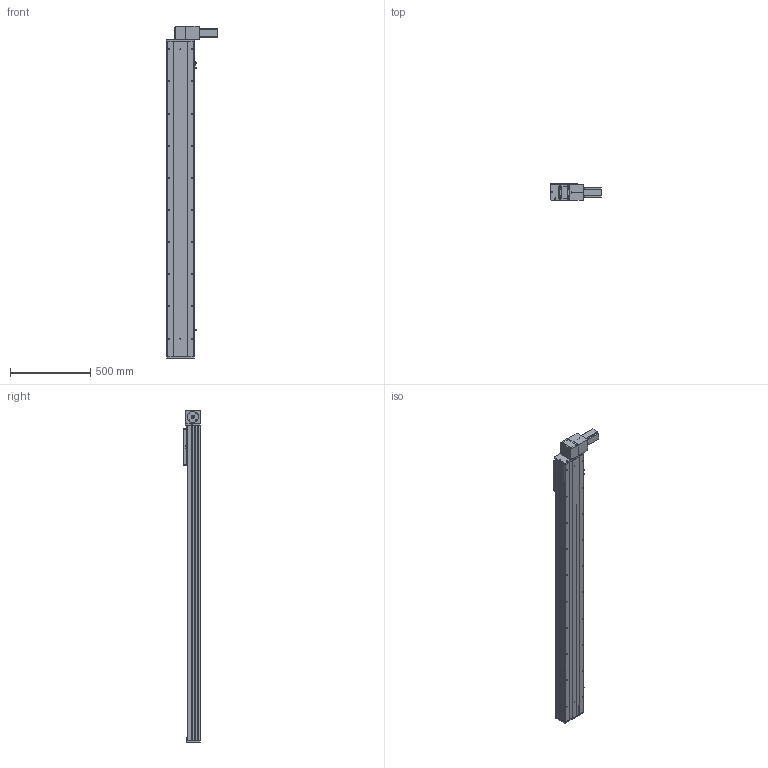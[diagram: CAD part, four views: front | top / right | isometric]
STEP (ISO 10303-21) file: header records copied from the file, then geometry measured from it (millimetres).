
FILE_DESCRIPTION (( 'STEP AP203' ), '1' );
FILE_NAME ('Y170CB-D105-S1650-BD-P400W.STEP', '2020-02-20T08:49:44', ( '微软用户' ), ( '微软中国' ), 'SwSTEP 2.0', 'SolidWorks 2017', '' );
FILE_SCHEMA (( 'CONFIG_CONTROL_DESIGN' ));
Length unit declared in the file: millimetre
Products named in the file (16): 70CB--耜裔; 70C-雄赽釱-奻-; 0C--雄赽釱俋欶-170; B-源倛裔啣; 70CB-詩湍--; san松下电机400不带刹车----; Y100-135俋离換覜ん--; 70CB-掛极-; Y170CB-陔俋离換覜結え---; --70CB --喘謫眊楊擘啣-; 0B薊粣ん眊-400W--; Y1埴倛裔; 70CB-耜裔啣-; Y170CB-D105-S1650-BD-P400W; 70B喘謫眊----; 70C--詩湍揤踡え-
Assembly tree (19 placements, depth 2):
  Y170CB-D105-S1650-BD-P400W
    B-源倛裔啣
    san松下电机400不带刹车----
    70CB-掛极-
    --70CB --喘謫眊楊擘啣-
    70CB-耜裔啣-  x2
    70C--詩湍揤踡え-  x2
    70CB--耜裔
    70C-雄赽釱-奻-
    0C--雄赽釱俋欶-170
    70CB-詩湍--
    Y100-135俋离換覜ん--  x3
    Y170CB-陔俋离換覜結え---
    Y1埴倛裔
    70B喘謫眊----
    0B薊粣ん眊-400W--
Bounding box: 313.5 x 107 x 2066 mm (x, y, z)
Volume: 9386480.9 mm3; surface area: 3247579.7 mm2
Topology: 19 solids, 19 shells, 944 faces, 2498 edges, 1656 vertices
Faces by surface type: cylinder 498, plane 422, cone 24
Entity records: 29595 total; most frequent: CARTESIAN_POINT 5506, DIRECTION 4815, ORIENTED_EDGE 4478, EDGE_CURVE 2239, AXIS2_PLACEMENT_3D 1781, VERTEX_POINT 1486, LINE 1253, VECTOR 1253
